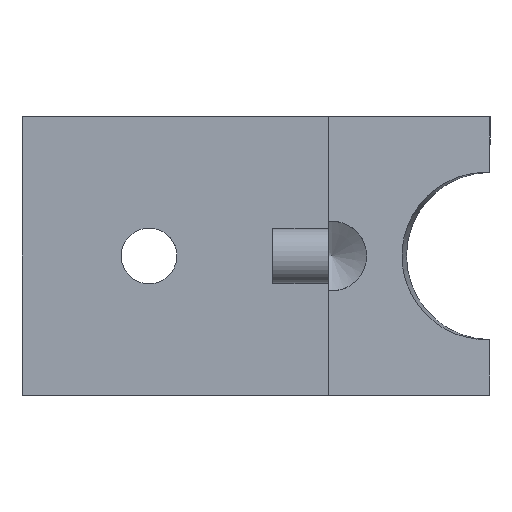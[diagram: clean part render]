
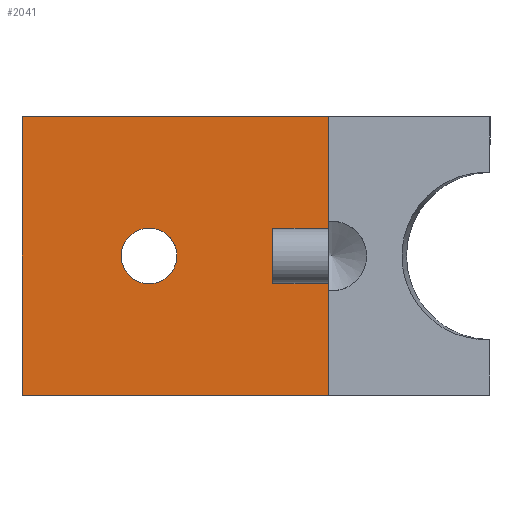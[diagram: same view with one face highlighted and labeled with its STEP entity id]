
A CAD part, left-side view. The second image highlights one B-rep face of the part: STEP entity #2041.
In plain terms, the highlighted planar face has unit normal (-1, 0, 0) as drawn and (0, 0, -1) by its records, which use the part's own axes.
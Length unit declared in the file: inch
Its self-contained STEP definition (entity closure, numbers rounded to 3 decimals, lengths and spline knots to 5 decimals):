
#1660=CARTESIAN_POINT('',(0.11285,-0.638,-0.305));
#1661=VERTEX_POINT('',#1660);
#1668=CARTESIAN_POINT('',(0.61285,-0.638,-0.305));
#1669=VERTEX_POINT('',#1668);
#1670=CARTESIAN_POINT('',(0.11285,-0.638,-0.305));
#1671=DIRECTION('',(1.0,0.0,0.0));
#1672=VECTOR('',#1671,0.5);
#1673=LINE('',#1670,#1672);
#1674=EDGE_CURVE('',#1661,#1669,#1673,.T.);
#1708=CARTESIAN_POINT('',(-0.63715,-0.638,-0.305));
#1709=VERTEX_POINT('',#1708);
#1716=CARTESIAN_POINT('',(-0.13715,-0.638,-0.305));
#1717=VERTEX_POINT('',#1716);
#1718=CARTESIAN_POINT('',(-0.63715,-0.638,-0.305));
#1719=DIRECTION('',(1.0,0.0,0.0));
#1720=VECTOR('',#1719,0.5);
#1721=LINE('',#1718,#1720);
#1722=EDGE_CURVE('',#1709,#1717,#1721,.T.);
#1772=CARTESIAN_POINT('',(-0.13715,-0.388,-0.305));
#1773=VERTEX_POINT('',#1772);
#1774=CARTESIAN_POINT('',(-0.13715,-0.388,-0.305));
#1775=DIRECTION('',(0.0,-1.0,0.0));
#1776=VECTOR('',#1775,0.25);
#1777=LINE('',#1774,#1776);
#1778=EDGE_CURVE('',#1773,#1717,#1777,.T.);
#1795=CARTESIAN_POINT('',(0.11285,-0.388,-0.305));
#1796=VERTEX_POINT('',#1795);
#1803=CARTESIAN_POINT('',(0.11285,-0.638,-0.305));
#1804=DIRECTION('',(0.0,1.0,0.0));
#1805=VECTOR('',#1804,0.25);
#1806=LINE('',#1803,#1805);
#1807=EDGE_CURVE('',#1661,#1796,#1806,.T.);
#1820=CARTESIAN_POINT('',(0.11285,-0.388,-0.305));
#1821=DIRECTION('',(-1.0,0.0,0.0));
#1822=VECTOR('',#1821,0.25);
#1823=LINE('',#1820,#1822);
#1824=EDGE_CURVE('',#1796,#1773,#1823,.T.);
#1868=CARTESIAN_POINT('',(-0.13715,0.167,-0.305));
#1869=VERTEX_POINT('',#1868);
#1870=CARTESIAN_POINT('',(-0.01215,0.167,-0.305));
#1871=DIRECTION('',(0.0,0.0,1.0));
#1872=DIRECTION('',(1.0,0.0,0.0));
#1873=AXIS2_PLACEMENT_3D('',#1870,#1871,#1872);
#1874=CIRCLE('',#1873,0.125);
#1875=EDGE_CURVE('',#1869,#1869,#1874,.T.);
#1964=CARTESIAN_POINT('',(-0.63715,0.737,-0.305));
#1965=VERTEX_POINT('',#1964);
#1972=CARTESIAN_POINT('',(-0.63715,0.737,-0.305));
#1973=DIRECTION('',(0.0,-1.0,0.0));
#1974=VECTOR('',#1973,1.375);
#1975=LINE('',#1972,#1974);
#1976=EDGE_CURVE('',#1965,#1709,#1975,.T.);
#1989=CARTESIAN_POINT('',(0.61285,0.737,-0.305));
#1990=VERTEX_POINT('',#1989);
#1991=CARTESIAN_POINT('',(0.61285,-0.638,-0.305));
#1992=DIRECTION('',(0.0,1.0,0.0));
#1993=VECTOR('',#1992,1.375);
#1994=LINE('',#1991,#1993);
#1995=EDGE_CURVE('',#1669,#1990,#1994,.T.);
#2013=CARTESIAN_POINT('',(0.61285,0.737,-0.305));
#2014=DIRECTION('',(-1.0,0.0,0.0));
#2015=VECTOR('',#2014,1.25);
#2016=LINE('',#2013,#2015);
#2017=EDGE_CURVE('',#1990,#1965,#2016,.T.);
#2023=CARTESIAN_POINT('',(-0.01215,0.0495,-0.305));
#2024=DIRECTION('',(0.0,0.0,1.0));
#2025=DIRECTION('',(1.0,0.0,0.0));
#2026=AXIS2_PLACEMENT_3D('',#2023,#2024,#2025);
#2027=PLANE('',#2026);
#2028=ORIENTED_EDGE('',*,*,#1778,.T.);
#2029=ORIENTED_EDGE('',*,*,#1722,.F.);
#2030=ORIENTED_EDGE('',*,*,#1976,.F.);
#2031=ORIENTED_EDGE('',*,*,#2017,.F.);
#2032=ORIENTED_EDGE('',*,*,#1995,.F.);
#2033=ORIENTED_EDGE('',*,*,#1674,.F.);
#2034=ORIENTED_EDGE('',*,*,#1807,.T.);
#2035=ORIENTED_EDGE('',*,*,#1824,.T.);
#2036=EDGE_LOOP('',(#2028,#2029,#2030,#2031,#2032,#2033,#2034,#2035));
#2037=FACE_OUTER_BOUND('',#2036,.T.);
#2038=ORIENTED_EDGE('',*,*,#1875,.T.);
#2039=EDGE_LOOP('',(#2038));
#2040=FACE_BOUND('',#2039,.T.);
#2041=ADVANCED_FACE('',(#2037,#2040),#2027,.F.);
